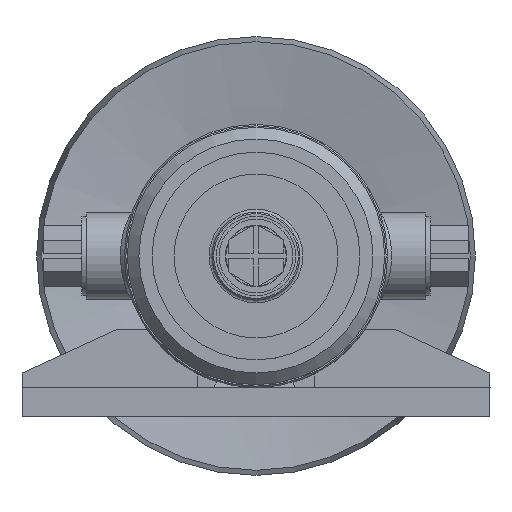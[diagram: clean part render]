
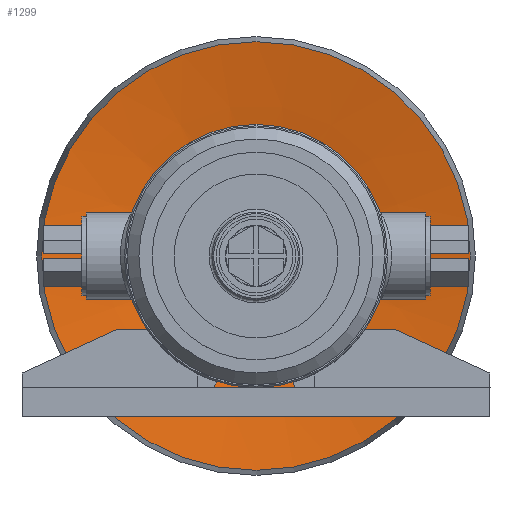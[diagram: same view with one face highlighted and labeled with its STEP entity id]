
A CAD part, left-side view. The second image highlights one B-rep face of the part: STEP entity #1299.
In plain terms, the highlighted conical face has half-angle 80 degrees and reference radius 73.263 mm.
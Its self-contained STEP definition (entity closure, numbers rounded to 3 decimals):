
#1299 = ADVANCED_FACE( '', ( #2340, #2341 ), #2342, .F. );
#2340 = FACE_BOUND( '', #3912, .T. );
#2341 = FACE_OUTER_BOUND( '', #3913, .T. );
#2342 = CONICAL_SURFACE( '', #3914, 73.264, 1.396 );
#3912 = EDGE_LOOP( '', ( #6140 ) );
#3913 = EDGE_LOOP( '', ( #6141 ) );
#3914 = AXIS2_PLACEMENT_3D( '', #6142, #6143, #6144 );
#6140 = ORIENTED_EDGE( '', *, *, #8165, .F. );
#6141 = ORIENTED_EDGE( '', *, *, #8190, .T. );
#6142 = CARTESIAN_POINT( '', ( -17.629, 0., 0. ) );
#6143 = DIRECTION( '', ( -1., 0., 0. ) );
#6144 = DIRECTION( '', ( 0., 0., 1. ) );
#8165 = EDGE_CURVE( '', #9078, #9078, #9079, .T. );
#8190 = EDGE_CURVE( '', #9121, #9121, #9122, .T. );
#9078 = VERTEX_POINT( '', #10309 );
#9079 = CIRCLE( '', #10310, 30. );
#9121 = VERTEX_POINT( '', #10361 );
#9122 = CIRCLE( '', #10362, 73.264 );
#10309 = CARTESIAN_POINT( '', ( -10., 0., 30. ) );
#10310 = AXIS2_PLACEMENT_3D( '', #13870, #13871, #13872 );
#10361 = CARTESIAN_POINT( '', ( -17.629, 0., 73.264 ) );
#10362 = AXIS2_PLACEMENT_3D( '', #13904, #13905, #13906 );
#13870 = CARTESIAN_POINT( '', ( -10., 0., 0. ) );
#13871 = DIRECTION( '', ( -1., 0., 0. ) );
#13872 = DIRECTION( '', ( 0., 0., 1. ) );
#13904 = CARTESIAN_POINT( '', ( -17.629, 0., 0. ) );
#13905 = DIRECTION( '', ( -1., 0., 0. ) );
#13906 = DIRECTION( '', ( 0., 0., 1. ) );
